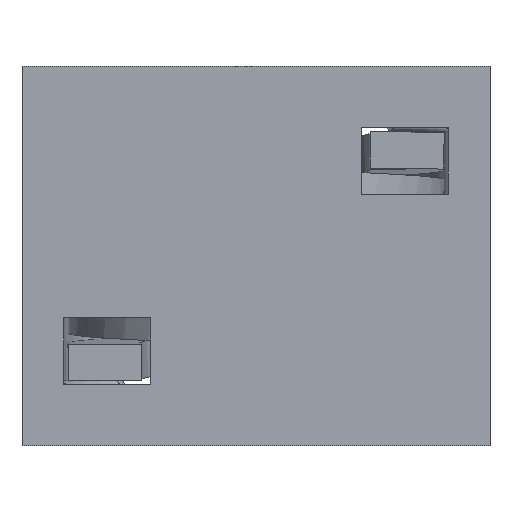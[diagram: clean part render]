
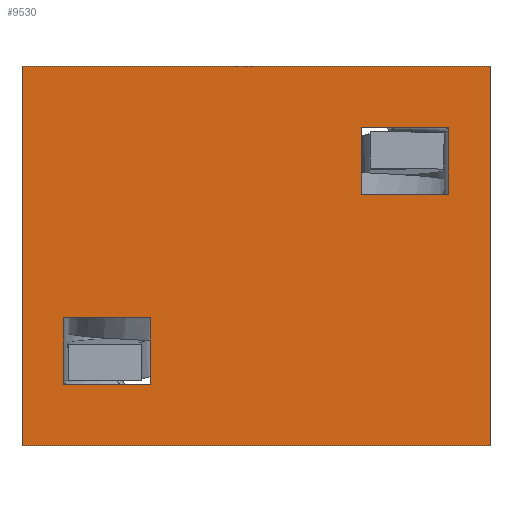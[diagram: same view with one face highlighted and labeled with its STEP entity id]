
A CAD part, front view. The second image highlights one B-rep face of the part: STEP entity #9530.
In plain terms, the highlighted planar face has unit normal (0, -1, 0).
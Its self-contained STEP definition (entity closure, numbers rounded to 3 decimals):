
#23 = DIRECTION ( 'NONE',  ( 1., 0., 0. ) ) ;
#152 = DIRECTION ( 'NONE',  ( 0., 0., -1. ) ) ;
#354 = ORIENTED_EDGE ( 'NONE', *, *, #9648, .F. ) ;
#460 = CARTESIAN_POINT ( 'NONE',  ( 0., 0., 0. ) ) ;
#745 = DIRECTION ( 'NONE',  ( -1., 0., 0. ) ) ;
#897 = DIRECTION ( 'NONE',  ( 0., 0., -1. ) ) ;
#956 = ORIENTED_EDGE ( 'NONE', *, *, #3670, .T. ) ;
#984 = CARTESIAN_POINT ( 'NONE',  ( 2.265, 0., -13.737 ) ) ;
#995 = FACE_BOUND ( 'NONE', #8088, .T. ) ;
#1022 = ORIENTED_EDGE ( 'NONE', *, *, #10369, .F. ) ;
#1053 = DIRECTION ( 'NONE',  ( 0., -1., 0. ) ) ;
#1270 = VECTOR ( 'NONE', #11373, 1000. ) ;
#1340 = VERTEX_POINT ( 'NONE', #6982 ) ;
#1355 = ORIENTED_EDGE ( 'NONE', *, *, #7945, .F. ) ;
#1508 = DIRECTION ( 'NONE',  ( -1., 0., 0. ) ) ;
#1716 = LINE ( 'NONE', #5375, #6441 ) ;
#1773 = VERTEX_POINT ( 'NONE', #3125 ) ;
#1779 = VECTOR ( 'NONE', #6413, 1000. ) ;
#1906 = DIRECTION ( 'NONE',  ( 0., 0., -1. ) ) ;
#1960 = PLANE ( 'NONE',  #7058 ) ;
#1978 = VECTOR ( 'NONE', #23, 1000. ) ;
#2231 = CARTESIAN_POINT ( 'NONE',  ( 25.527, 0., -20.727 ) ) ;
#2289 = LINE ( 'NONE', #4150, #9131 ) ;
#2425 = CARTESIAN_POINT ( 'NONE',  ( 2.265, 0., -17.362 ) ) ;
#2699 = LINE ( 'NONE', #6172, #2729 ) ;
#2729 = VECTOR ( 'NONE', #10963, 1000. ) ;
#2880 = VERTEX_POINT ( 'NONE', #2425 ) ;
#3019 = VECTOR ( 'NONE', #4977, 1000. ) ;
#3125 = CARTESIAN_POINT ( 'NONE',  ( 18.512, 0., -3.365 ) ) ;
#3411 = VECTOR ( 'NONE', #8489, 1000. ) ;
#3468 = VERTEX_POINT ( 'NONE', #4985 ) ;
#3601 = CARTESIAN_POINT ( 'NONE',  ( 0., 0., 0. ) ) ;
#3604 = ORIENTED_EDGE ( 'NONE', *, *, #4523, .T. ) ;
#3670 = EDGE_CURVE ( 'NONE', #2880, #4168, #8932, .T. ) ;
#3717 = CARTESIAN_POINT ( 'NONE',  ( 18.512, 0., -6.99 ) ) ;
#4150 = CARTESIAN_POINT ( 'NONE',  ( 23.262, 0., -6.99 ) ) ;
#4168 = VERTEX_POINT ( 'NONE', #11710 ) ;
#4330 = EDGE_CURVE ( 'NONE', #10430, #6314, #4635, .T. ) ;
#4396 = LINE ( 'NONE', #5468, #9244 ) ;
#4434 = CARTESIAN_POINT ( 'NONE',  ( 7.015, 0., -17.362 ) ) ;
#4523 = EDGE_CURVE ( 'NONE', #1340, #7485, #2289, .T. ) ;
#4635 = LINE ( 'NONE', #8291, #7988 ) ;
#4893 = LINE ( 'NONE', #10175, #3411 ) ;
#4977 = DIRECTION ( 'NONE',  ( 1., 0., 0. ) ) ;
#4985 = CARTESIAN_POINT ( 'NONE',  ( 7.015, 0., -13.737 ) ) ;
#4992 = CARTESIAN_POINT ( 'NONE',  ( 25.527, 0., 0. ) ) ;
#5149 = EDGE_CURVE ( 'NONE', #3468, #7318, #4893, .T. ) ;
#5375 = CARTESIAN_POINT ( 'NONE',  ( 18.512, 0., -6.99 ) ) ;
#5460 = EDGE_LOOP ( 'NONE', ( #7265, #7783, #3604, #8202 ) ) ;
#5468 = CARTESIAN_POINT ( 'NONE',  ( 23.262, 0., -6.99 ) ) ;
#5600 = CARTESIAN_POINT ( 'NONE',  ( 0., 0., -20.727 ) ) ;
#5680 = VECTOR ( 'NONE', #152, 1000. ) ;
#5971 = EDGE_CURVE ( 'NONE', #6405, #1340, #4396, .T. ) ;
#6095 = CARTESIAN_POINT ( 'NONE',  ( 0., 0., -20.727 ) ) ;
#6172 = CARTESIAN_POINT ( 'NONE',  ( 2.265, 0., -17.362 ) ) ;
#6314 = VERTEX_POINT ( 'NONE', #3601 ) ;
#6405 = VERTEX_POINT ( 'NONE', #7364 ) ;
#6413 = DIRECTION ( 'NONE',  ( 0., 0., 1. ) ) ;
#6441 = VECTOR ( 'NONE', #9024, 1000. ) ;
#6495 = DIRECTION ( 'NONE',  ( 0., 0., 1. ) ) ;
#6674 = EDGE_CURVE ( 'NONE', #4168, #3468, #8366, .T. ) ;
#6982 = CARTESIAN_POINT ( 'NONE',  ( 23.262, 0., -6.99 ) ) ;
#7058 = AXIS2_PLACEMENT_3D ( 'NONE', #10905, #1053, #1906 ) ;
#7265 = ORIENTED_EDGE ( 'NONE', *, *, #9590, .T. ) ;
#7318 = VERTEX_POINT ( 'NONE', #4434 ) ;
#7328 = EDGE_CURVE ( 'NONE', #7318, #2880, #2699, .T. ) ;
#7364 = CARTESIAN_POINT ( 'NONE',  ( 23.262, 0., -3.365 ) ) ;
#7367 = ORIENTED_EDGE ( 'NONE', *, *, #7328, .T. ) ;
#7485 = VERTEX_POINT ( 'NONE', #3717 ) ;
#7542 = LINE ( 'NONE', #8437, #1270 ) ;
#7783 = ORIENTED_EDGE ( 'NONE', *, *, #5971, .T. ) ;
#7860 = EDGE_CURVE ( 'NONE', #7485, #1773, #1716, .T. ) ;
#7945 = EDGE_CURVE ( 'NONE', #8483, #8424, #8310, .T. ) ;
#7988 = VECTOR ( 'NONE', #6495, 1000. ) ;
#8088 = EDGE_LOOP ( 'NONE', ( #7367, #956, #9104, #8274 ) ) ;
#8202 = ORIENTED_EDGE ( 'NONE', *, *, #7860, .T. ) ;
#8221 = CARTESIAN_POINT ( 'NONE',  ( 2.265, 0., -13.737 ) ) ;
#8274 = ORIENTED_EDGE ( 'NONE', *, *, #5149, .T. ) ;
#8291 = CARTESIAN_POINT ( 'NONE',  ( 0., 0., 0. ) ) ;
#8310 = LINE ( 'NONE', #8429, #5680 ) ;
#8366 = LINE ( 'NONE', #984, #1978 ) ;
#8424 = VERTEX_POINT ( 'NONE', #2231 ) ;
#8429 = CARTESIAN_POINT ( 'NONE',  ( 25.527, 0., 0. ) ) ;
#8437 = CARTESIAN_POINT ( 'NONE',  ( 23.262, 0., -3.365 ) ) ;
#8483 = VERTEX_POINT ( 'NONE', #4992 ) ;
#8489 = DIRECTION ( 'NONE',  ( 0., 0., -1. ) ) ;
#8809 = ORIENTED_EDGE ( 'NONE', *, *, #4330, .F. ) ;
#8932 = LINE ( 'NONE', #8221, #1779 ) ;
#9024 = DIRECTION ( 'NONE',  ( 0., 0., 1. ) ) ;
#9034 = FACE_BOUND ( 'NONE', #5460, .T. ) ;
#9104 = ORIENTED_EDGE ( 'NONE', *, *, #6674, .T. ) ;
#9131 = VECTOR ( 'NONE', #1508, 1000. ) ;
#9147 = VECTOR ( 'NONE', #745, 1000. ) ;
#9244 = VECTOR ( 'NONE', #897, 1000. ) ;
#9523 = LINE ( 'NONE', #460, #3019 ) ;
#9530 = ADVANCED_FACE ( 'NONE', ( #11088, #995, #9034 ), #1960, .T. ) ;
#9556 = EDGE_LOOP ( 'NONE', ( #8809, #354, #1355, #1022 ) ) ;
#9590 = EDGE_CURVE ( 'NONE', #1773, #6405, #7542, .T. ) ;
#9648 = EDGE_CURVE ( 'NONE', #8424, #10430, #11606, .T. ) ;
#10175 = CARTESIAN_POINT ( 'NONE',  ( 7.015, 0., -13.737 ) ) ;
#10369 = EDGE_CURVE ( 'NONE', #6314, #8483, #9523, .T. ) ;
#10430 = VERTEX_POINT ( 'NONE', #5600 ) ;
#10905 = CARTESIAN_POINT ( 'NONE',  ( 0., 0., 0. ) ) ;
#10963 = DIRECTION ( 'NONE',  ( -1., 0., 0. ) ) ;
#11088 = FACE_OUTER_BOUND ( 'NONE', #9556, .T. ) ;
#11373 = DIRECTION ( 'NONE',  ( 1., 0., 0. ) ) ;
#11606 = LINE ( 'NONE', #6095, #9147 ) ;
#11710 = CARTESIAN_POINT ( 'NONE',  ( 2.265, 0., -13.737 ) ) ;
